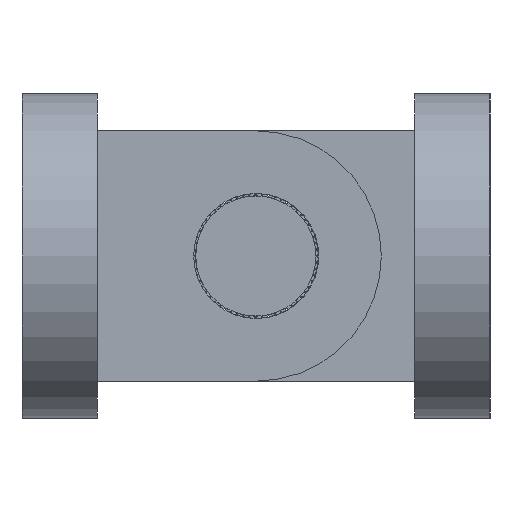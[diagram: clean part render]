
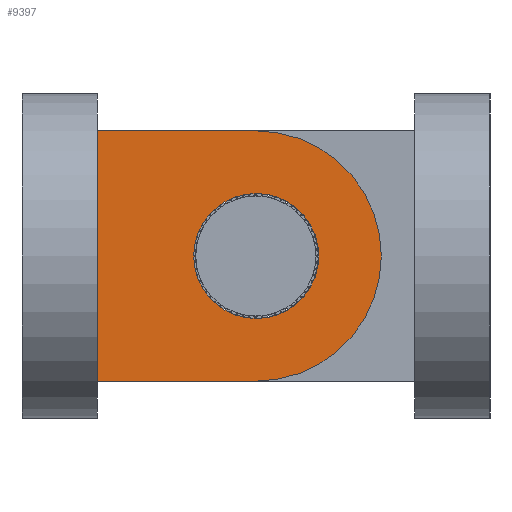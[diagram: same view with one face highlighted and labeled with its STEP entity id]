
A CAD part, left-side view. The second image highlights one B-rep face of the part: STEP entity #9397.
In plain terms, the highlighted planar face has unit normal (-1, 0, 0).
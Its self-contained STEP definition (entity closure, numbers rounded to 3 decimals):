
#223 = VERTEX_POINT ( 'NONE', #7369 ) ;
#378 = VERTEX_POINT ( 'NONE', #6903 ) ;
#572 = DIRECTION ( 'NONE',  ( -1., 0., 0. ) ) ;
#902 = ORIENTED_EDGE ( 'NONE', *, *, #10087, .F. ) ;
#988 = VECTOR ( 'NONE', #5437, 1000. ) ;
#1021 = CARTESIAN_POINT ( 'NONE',  ( -19.3, 6.343, 0. ) ) ;
#1333 = EDGE_LOOP ( 'NONE', ( #9926, #902 ) ) ;
#1424 = DIRECTION ( 'NONE',  ( 0., 1., 0. ) ) ;
#1887 = DIRECTION ( 'NONE',  ( 0., 0., -1. ) ) ;
#1890 = VECTOR ( 'NONE', #2076, 1000. ) ;
#1948 = CIRCLE ( 'NONE', #6871, 2.5 ) ;
#2076 = DIRECTION ( 'NONE',  ( 0., 0., -1. ) ) ;
#2176 = CARTESIAN_POINT ( 'NONE',  ( -19.3, 12.703, 5. ) ) ;
#2240 = ORIENTED_EDGE ( 'NONE', *, *, #9242, .T. ) ;
#2246 = CIRCLE ( 'NONE', #9444, 2.5 ) ;
#2283 = CARTESIAN_POINT ( 'NONE',  ( -19.3, 6.343, 5. ) ) ;
#2430 = CARTESIAN_POINT ( 'NONE',  ( -19.3, 6.343, 0. ) ) ;
#2970 = ORIENTED_EDGE ( 'NONE', *, *, #3154, .T. ) ;
#3051 = LINE ( 'NONE', #2283, #988 ) ;
#3154 = EDGE_CURVE ( 'NONE', #223, #378, #9249, .T. ) ;
#3728 = CIRCLE ( 'NONE', #9447, 5. ) ;
#4074 = VERTEX_POINT ( 'NONE', #6713 ) ;
#4207 = DIRECTION ( 'NONE',  ( -1., 0., 0. ) ) ;
#4338 = VERTEX_POINT ( 'NONE', #8873 ) ;
#4408 = CARTESIAN_POINT ( 'NONE',  ( -19.3, 6.343, 0. ) ) ;
#4533 = CARTESIAN_POINT ( 'NONE',  ( -19.3, 6.343, 0. ) ) ;
#4591 = PLANE ( 'NONE',  #8806 ) ;
#4974 = CARTESIAN_POINT ( 'NONE',  ( -19.3, 6.343, 2.5 ) ) ;
#5201 = LINE ( 'NONE', #9219, #8157 ) ;
#5437 = DIRECTION ( 'NONE',  ( 0., 1., 0. ) ) ;
#5575 = DIRECTION ( 'NONE',  ( -1., 0., 0. ) ) ;
#5636 = ORIENTED_EDGE ( 'NONE', *, *, #6665, .T. ) ;
#5966 = FACE_BOUND ( 'NONE', #1333, .T. ) ;
#6324 = VERTEX_POINT ( 'NONE', #4974 ) ;
#6665 = EDGE_CURVE ( 'NONE', #4074, #223, #3051, .T. ) ;
#6704 = DIRECTION ( 'NONE',  ( 0., 0., -1. ) ) ;
#6713 = CARTESIAN_POINT ( 'NONE',  ( -19.3, 6.343, 5. ) ) ;
#6801 = EDGE_CURVE ( 'NONE', #8007, #6324, #1948, .T. ) ;
#6824 = ORIENTED_EDGE ( 'NONE', *, *, #9423, .F. ) ;
#6871 = AXIS2_PLACEMENT_3D ( 'NONE', #4408, #572, #6704 ) ;
#6903 = CARTESIAN_POINT ( 'NONE',  ( -19.3, 12.703, -5. ) ) ;
#6951 = EDGE_LOOP ( 'NONE', ( #6824, #2240, #5636, #2970 ) ) ;
#7369 = CARTESIAN_POINT ( 'NONE',  ( -19.3, 12.703, 5. ) ) ;
#7702 = DIRECTION ( 'NONE',  ( 0., 0., -1. ) ) ;
#8007 = VERTEX_POINT ( 'NONE', #8236 ) ;
#8157 = VECTOR ( 'NONE', #1424, 1000. ) ;
#8236 = CARTESIAN_POINT ( 'NONE',  ( -19.3, 6.343, -2.5 ) ) ;
#8806 = AXIS2_PLACEMENT_3D ( 'NONE', #4533, #9124, #7702 ) ;
#8873 = CARTESIAN_POINT ( 'NONE',  ( -19.3, 6.343, -5. ) ) ;
#9124 = DIRECTION ( 'NONE',  ( -1., 0., 0. ) ) ;
#9219 = CARTESIAN_POINT ( 'NONE',  ( -19.3, 6.343, -5. ) ) ;
#9242 = EDGE_CURVE ( 'NONE', #4338, #4074, #3728, .T. ) ;
#9249 = LINE ( 'NONE', #2176, #1890 ) ;
#9397 = ADVANCED_FACE ( 'NONE', ( #5966, #9981 ), #4591, .T. ) ;
#9423 = EDGE_CURVE ( 'NONE', #4338, #378, #5201, .T. ) ;
#9444 = AXIS2_PLACEMENT_3D ( 'NONE', #2430, #5575, #9541 ) ;
#9447 = AXIS2_PLACEMENT_3D ( 'NONE', #1021, #4207, #1887 ) ;
#9541 = DIRECTION ( 'NONE',  ( 0., 0., -1. ) ) ;
#9926 = ORIENTED_EDGE ( 'NONE', *, *, #6801, .F. ) ;
#9981 = FACE_OUTER_BOUND ( 'NONE', #6951, .T. ) ;
#10087 = EDGE_CURVE ( 'NONE', #6324, #8007, #2246, .T. ) ;
